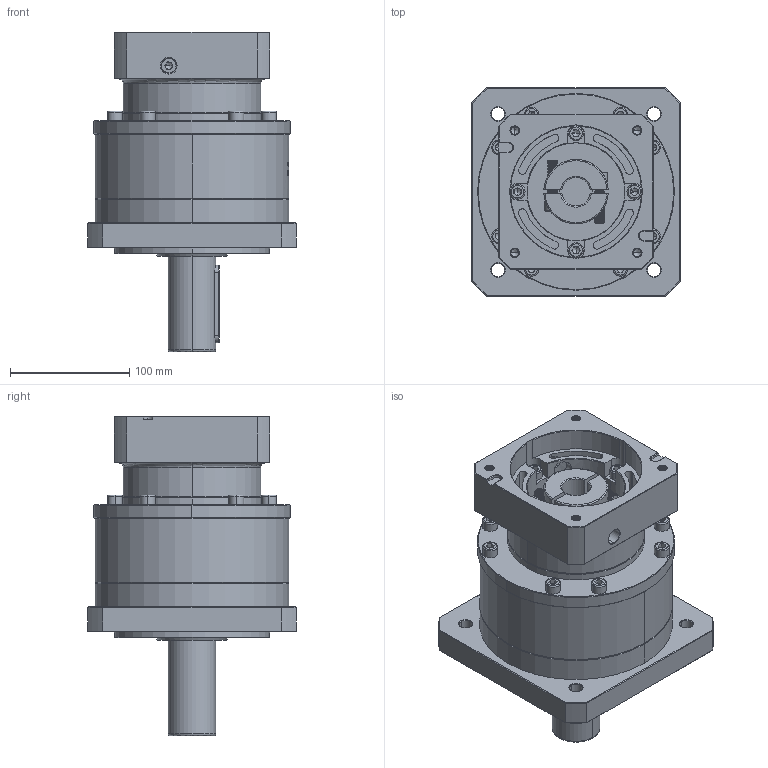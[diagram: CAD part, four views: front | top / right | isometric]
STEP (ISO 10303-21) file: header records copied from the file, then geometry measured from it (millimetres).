
FILE_DESCRIPTION (( 'STEP AP214' ), '1' );
FILE_NAME ('ZF160-D40-L1-24-110-145-M8.step', '2023-03-21T04:27:54', ( '' ), ( '' ), 'SwSTEP 2.0', 'SolidWorks 2016', '' );
FILE_SCHEMA (( 'AUTOMOTIVE_DESIGN' ));
Length unit declared in the file: millimetre
Products named in the file (1): ZF160-D40-L1-24-110-145-M8
Bounding box: 175 x 175 x 267.8 mm (x, y, z)
Volume: 3209089.6 mm3; surface area: 313632.8 mm2
Topology: 7 solids, 7 shells, 1913 faces, 4884 edges, 3093 vertices
Faces by surface type: plane 774, cylinder 504, cone 361, bspline 217, torus 57
Entity records: 105149 total; most frequent: CARTESIAN_POINT 40085, ORIENTED_EDGE 9660, DIRECTION 8481, EDGE_CURVE 4830, VERTEX_POINT 3093, AXIS2_PLACEMENT_3D 2954, VECTOR 2573, LINE 2573
